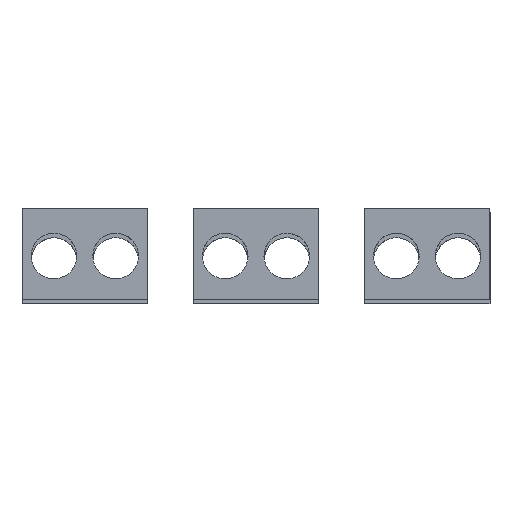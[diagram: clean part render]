
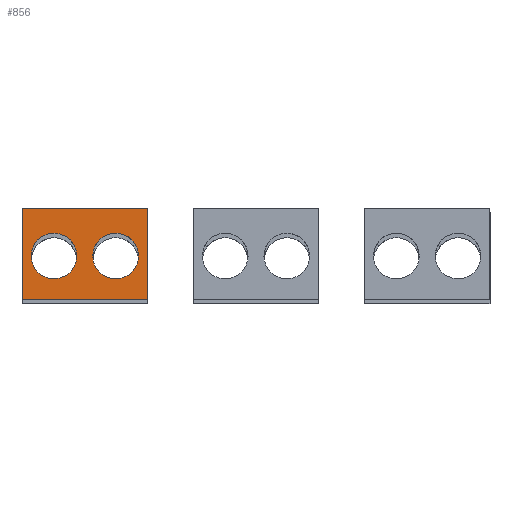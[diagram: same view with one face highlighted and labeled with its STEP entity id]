
A CAD part, front view. The second image highlights one B-rep face of the part: STEP entity #856.
In plain terms, the highlighted planar face has unit normal (0, -1, 0).
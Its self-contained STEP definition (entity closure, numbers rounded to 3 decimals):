
#218 = EDGE_CURVE ( 'NONE', #2266, #4720, #2437, .T. ) ;
#311 = LINE ( 'NONE', #6979, #4610 ) ;
#338 = CIRCLE ( 'NONE', #6390, 10. ) ;
#774 = EDGE_CURVE ( 'NONE', #3417, #1119, #1133, .T. ) ;
#856 = ADVANCED_FACE ( 'NONE', ( #5434, #4592, #5517 ), #5026, .T. ) ;
#977 = DIRECTION ( 'NONE',  ( 1., 0., 0. ) ) ;
#1119 = VERTEX_POINT ( 'NONE', #1592 ) ;
#1133 = LINE ( 'NONE', #5452, #1741 ) ;
#1137 = DIRECTION ( 'NONE',  ( 1., 0., 0. ) ) ;
#1165 = DIRECTION ( 'NONE',  ( -1., 0., 0. ) ) ;
#1185 = CIRCLE ( 'NONE', #7139, 10. ) ;
#1356 = EDGE_LOOP ( 'NONE', ( #7038, #5744, #3237, #4907 ) ) ;
#1375 = AXIS2_PLACEMENT_3D ( 'NONE', #2587, #4877, #977 ) ;
#1481 = AXIS2_PLACEMENT_3D ( 'NONE', #6730, #5097, #1137 ) ;
#1565 = CARTESIAN_POINT ( 'NONE',  ( -47.5, -108.2, 31.75 ) ) ;
#1592 = CARTESIAN_POINT ( 'NONE',  ( -47.5, -108.2, 31.75 ) ) ;
#1639 = CARTESIAN_POINT ( 'NONE',  ( -51.5, -108.2, 50.75 ) ) ;
#1642 = LINE ( 'NONE', #1565, #1815 ) ;
#1741 = VECTOR ( 'NONE', #2115, 1000. ) ;
#1815 = VECTOR ( 'NONE', #6600, 1000. ) ;
#1835 = EDGE_CURVE ( 'NONE', #4720, #2266, #4241, .T. ) ;
#2115 = DIRECTION ( 'NONE',  ( 0., 0., -1. ) ) ;
#2252 = CARTESIAN_POINT ( 'NONE',  ( -98.5, -108.2, 50.75 ) ) ;
#2266 = VERTEX_POINT ( 'NONE', #5584 ) ;
#2275 = CARTESIAN_POINT ( 'NONE',  ( -88.5, -108.2, 50.75 ) ) ;
#2297 = DIRECTION ( 'NONE',  ( 0., 1., 0. ) ) ;
#2437 = CIRCLE ( 'NONE', #6952, 10. ) ;
#2587 = CARTESIAN_POINT ( 'NONE',  ( -88.5, -108.2, 50.75 ) ) ;
#2718 = EDGE_CURVE ( 'NONE', #4139, #4059, #1185, .T. ) ;
#2740 = VERTEX_POINT ( 'NONE', #2802 ) ;
#2802 = CARTESIAN_POINT ( 'NONE',  ( -102.5, -108.2, 31.75 ) ) ;
#2953 = LINE ( 'NONE', #3262, #5529 ) ;
#3146 = EDGE_CURVE ( 'NONE', #4059, #4139, #338, .T. ) ;
#3237 = ORIENTED_EDGE ( 'NONE', *, *, #6776, .F. ) ;
#3262 = CARTESIAN_POINT ( 'NONE',  ( -102.5, -108.2, 31.75 ) ) ;
#3273 = ORIENTED_EDGE ( 'NONE', *, *, #2718, .T. ) ;
#3379 = CARTESIAN_POINT ( 'NONE',  ( -102.5, -108.2, 71.75 ) ) ;
#3417 = VERTEX_POINT ( 'NONE', #3990 ) ;
#3692 = DIRECTION ( 'NONE',  ( 1., 0., 0. ) ) ;
#3769 = DIRECTION ( 'NONE',  ( -1., 0., 0. ) ) ;
#3813 = EDGE_CURVE ( 'NONE', #1119, #2740, #1642, .T. ) ;
#3834 = ORIENTED_EDGE ( 'NONE', *, *, #218, .T. ) ;
#3837 = DIRECTION ( 'NONE',  ( 0., 1., 0. ) ) ;
#3990 = CARTESIAN_POINT ( 'NONE',  ( -47.5, -108.2, 71.75 ) ) ;
#4059 = VERTEX_POINT ( 'NONE', #1639 ) ;
#4087 = DIRECTION ( 'NONE',  ( 1., 0., 0. ) ) ;
#4139 = VERTEX_POINT ( 'NONE', #6698 ) ;
#4241 = CIRCLE ( 'NONE', #1375, 10. ) ;
#4343 = EDGE_LOOP ( 'NONE', ( #3273, #5059 ) ) ;
#4408 = CARTESIAN_POINT ( 'NONE',  ( -61.5, -108.2, 50.75 ) ) ;
#4592 = FACE_BOUND ( 'NONE', #4343, .T. ) ;
#4610 = VECTOR ( 'NONE', #3692, 1000. ) ;
#4720 = VERTEX_POINT ( 'NONE', #2252 ) ;
#4877 = DIRECTION ( 'NONE',  ( 0., 1., 0. ) ) ;
#4907 = ORIENTED_EDGE ( 'NONE', *, *, #3813, .F. ) ;
#5026 = PLANE ( 'NONE',  #1481 ) ;
#5059 = ORIENTED_EDGE ( 'NONE', *, *, #3146, .T. ) ;
#5097 = DIRECTION ( 'NONE',  ( 0., -1., 0. ) ) ;
#5434 = FACE_BOUND ( 'NONE', #6770, .T. ) ;
#5452 = CARTESIAN_POINT ( 'NONE',  ( -47.5, -108.2, 31.75 ) ) ;
#5517 = FACE_OUTER_BOUND ( 'NONE', #1356, .T. ) ;
#5529 = VECTOR ( 'NONE', #6587, 1000. ) ;
#5584 = CARTESIAN_POINT ( 'NONE',  ( -78.5, -108.2, 50.75 ) ) ;
#5737 = ORIENTED_EDGE ( 'NONE', *, *, #1835, .T. ) ;
#5744 = ORIENTED_EDGE ( 'NONE', *, *, #6605, .F. ) ;
#6038 = DIRECTION ( 'NONE',  ( 0., 1., 0. ) ) ;
#6074 = CARTESIAN_POINT ( 'NONE',  ( -61.5, -108.2, 50.75 ) ) ;
#6321 = VERTEX_POINT ( 'NONE', #3379 ) ;
#6390 = AXIS2_PLACEMENT_3D ( 'NONE', #6074, #3837, #1165 ) ;
#6587 = DIRECTION ( 'NONE',  ( 0., 0., 1. ) ) ;
#6600 = DIRECTION ( 'NONE',  ( -1., 0., 0. ) ) ;
#6605 = EDGE_CURVE ( 'NONE', #6321, #3417, #311, .T. ) ;
#6698 = CARTESIAN_POINT ( 'NONE',  ( -71.5, -108.2, 50.75 ) ) ;
#6730 = CARTESIAN_POINT ( 'NONE',  ( -47.5, -108.2, 71.75 ) ) ;
#6770 = EDGE_LOOP ( 'NONE', ( #5737, #3834 ) ) ;
#6776 = EDGE_CURVE ( 'NONE', #2740, #6321, #2953, .T. ) ;
#6952 = AXIS2_PLACEMENT_3D ( 'NONE', #2275, #2297, #4087 ) ;
#6979 = CARTESIAN_POINT ( 'NONE',  ( -47.5, -108.2, 71.75 ) ) ;
#7038 = ORIENTED_EDGE ( 'NONE', *, *, #774, .F. ) ;
#7139 = AXIS2_PLACEMENT_3D ( 'NONE', #4408, #6038, #3769 ) ;
